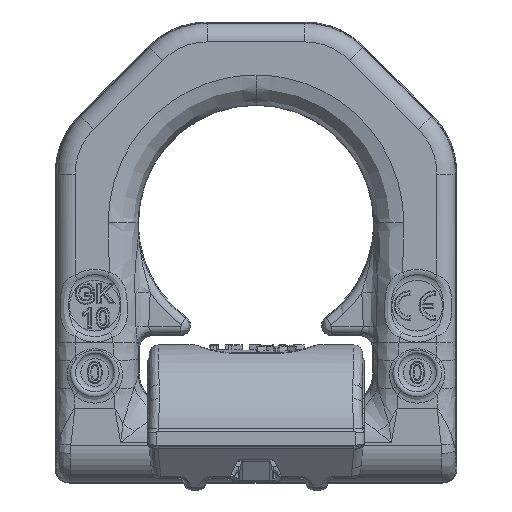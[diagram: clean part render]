
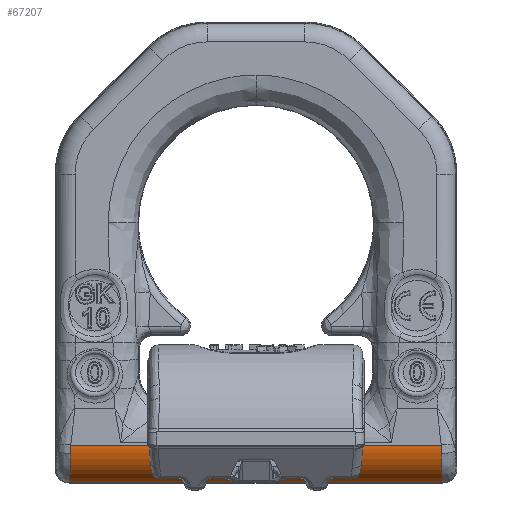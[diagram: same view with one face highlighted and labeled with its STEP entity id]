
A CAD part, left-side view. The second image highlights one B-rep face of the part: STEP entity #67207.
In plain terms, the highlighted cylindrical face has radius 8.5 mm (diameter 17 mm), a partial arc.
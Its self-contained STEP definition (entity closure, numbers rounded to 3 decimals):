
#58026=CARTESIAN_POINT('',(-2.738,-40.477,
-8.37));
#58027=VERTEX_POINT('Vertex1416',#58026);
#60451=CARTESIAN_POINT('',(-8.557,-40.28,-2.043
));
#60452=VERTEX_POINT('Vertex1430',#60451);
#60460=CARTESIAN_POINT('',(-0.25,-40.561,-0.243
));
#60461=DIRECTION('',(-0.034,-0.999,
0.));
#60462=DIRECTION('',(-0.999,0.034,0.
));
#60463=AXIS2_PLACEMENT_3D('',#60460,#60461,#60462);
#60464=ELLIPSE('nurbsCrv2267',#60463,8.505,8.5);
#60465=EDGE_CURVE('Edge2267',#60452,#58027,#60464,.T.);
#60564=CARTESIAN_POINT('',(-8.75,-40.222,-0.243));
#60565=VERTEX_POINT('Vertex1432',#60564);
#60573=CARTESIAN_POINT('',(-8.75,-40.222,-0.243));
#60574=CARTESIAN_POINT('',(-8.75,-40.228,
-0.447));
#60575=CARTESIAN_POINT('',(-8.743,-40.237,
-0.652));
#60576=CARTESIAN_POINT('',(-8.714,-40.253,
-1.054));
#60577=CARTESIAN_POINT('',(-8.692,-40.261,-1.251
));
#60578=CARTESIAN_POINT('',(-8.647,-40.271,
-1.571));
#60579=CARTESIAN_POINT('',(-8.626,-40.274,-1.693
));
#60580=CARTESIAN_POINT('',(-8.589,-40.278,
-1.891));
#60581=CARTESIAN_POINT('',(-8.574,-40.279,
-1.967));
#60582=CARTESIAN_POINT('',(-8.557,-40.28,-2.043
));
#60583=B_SPLINE_CURVE_WITH_KNOTS('nurbsCrv2270',3,(#60573,#60574,#60575,#60576,
#60577,#60578,#60579,#60580,#60581,#60582),.UNSPECIFIED.,.F.,.F.,(4,2,2,2,4),(
0.,0.397,0.782,1.023,1.173),
.UNSPECIFIED.);
#60584=EDGE_CURVE('Edge2270',#60565,#60452,#60583,.T.);
#64648=CARTESIAN_POINT('',(-2.738,40.477,-8.37
));
#64649=VERTEX_POINT('Vertex1486',#64648);
#64650=CARTESIAN_POINT('',(-2.738,0.,-8.37));
#64651=DIRECTION('',(0.,1.,0.));
#64652=VECTOR('',#64651,1.);
#64653=LINE('nurbsCrv2360',#64650,#64652);
#64654=EDGE_CURVE('Edge2360',#58027,#64649,#64653,.T.);
#67132=CARTESIAN_POINT('',(-8.75,40.222,-0.243));
#67133=VERTEX_POINT('Vertex1509',#67132);
#67157=CARTESIAN_POINT('',(-8.75,0.,-0.243));
#67158=DIRECTION('',(0.,-1.,0.));
#67159=VECTOR('',#67158,1.);
#67160=LINE('nurbsCrv2415',#67157,#67159);
#67161=EDGE_CURVE('Edge2415',#67133,#60565,#67160,.T.);
#67174=ORIENTED_EDGE('Edgeuse4726',*,*,#64654,.F.);
#67175=ORIENTED_EDGE('Edgeuse4727',*,*,#60465,.F.);
#67176=ORIENTED_EDGE('Edgeuse4728',*,*,#60584,.F.);
#67177=ORIENTED_EDGE('Edgeuse4729',*,*,#67161,.F.);
#67178=CARTESIAN_POINT('',(-8.557,40.28,-2.043)
);
#67179=VERTEX_POINT('Vertex1510',#67178);
#67180=CARTESIAN_POINT('',(-8.75,40.222,-0.243));
#67181=CARTESIAN_POINT('',(-8.75,40.228,
-0.447));
#67182=CARTESIAN_POINT('',(-8.743,40.237,
-0.652));
#67183=CARTESIAN_POINT('',(-8.714,40.253,-1.054
));
#67184=CARTESIAN_POINT('',(-8.692,40.261,-1.251)
);
#67185=CARTESIAN_POINT('',(-8.647,40.271,-1.571
));
#67186=CARTESIAN_POINT('',(-8.626,40.274,-1.693)
);
#67187=CARTESIAN_POINT('',(-8.589,40.278,-1.891
));
#67188=CARTESIAN_POINT('',(-8.574,40.279,-1.967
));
#67189=CARTESIAN_POINT('',(-8.557,40.28,-2.043)
);
#67190=B_SPLINE_CURVE_WITH_KNOTS('nurbsCrv2416',3,(#67180,#67181,#67182,#67183,
#67184,#67185,#67186,#67187,#67188,#67189),.UNSPECIFIED.,.F.,.F.,(4,2,2,2,4),(
0.,0.397,0.782,1.023,1.173),
.UNSPECIFIED.);
#67191=EDGE_CURVE('Edge2416',#67133,#67179,#67190,.T.);
#67192=ORIENTED_EDGE('Edgeuse4730',*,*,#67191,.T.);
#67193=CARTESIAN_POINT('',(-0.25,40.561,-0.243)
);
#67194=DIRECTION('',(0.034,-0.999,
0.));
#67195=DIRECTION('',(-0.999,-0.034,
0.));
#67196=AXIS2_PLACEMENT_3D('',#67193,#67194,#67195);
#67197=ELLIPSE('nurbsCrv2417',#67196,8.505,8.5);
#67198=EDGE_CURVE('Edge2417',#67179,#64649,#67197,.T.);
#67199=ORIENTED_EDGE('Edgeuse4731',*,*,#67198,.T.);
#67200=EDGE_LOOP('',(#67174,#67175,#67176,#67177,#67192,#67199));
#67201=FACE_OUTER_BOUND('',#67200,.T.);
#67202=CARTESIAN_POINT('',(-0.25,44.525,
-0.243));
#67203=DIRECTION('',(0.,-1.,0.));
#67204=DIRECTION('',(0.804,0.,0.595));
#67205=AXIS2_PLACEMENT_3D('',#67202,#67203,#67204);
#67206=CYLINDRICAL_SURFACE('nurbsSrf942',#67205,8.5);
#67207=ADVANCED_FACE('Face942',(#67201),#67206,.T.);
